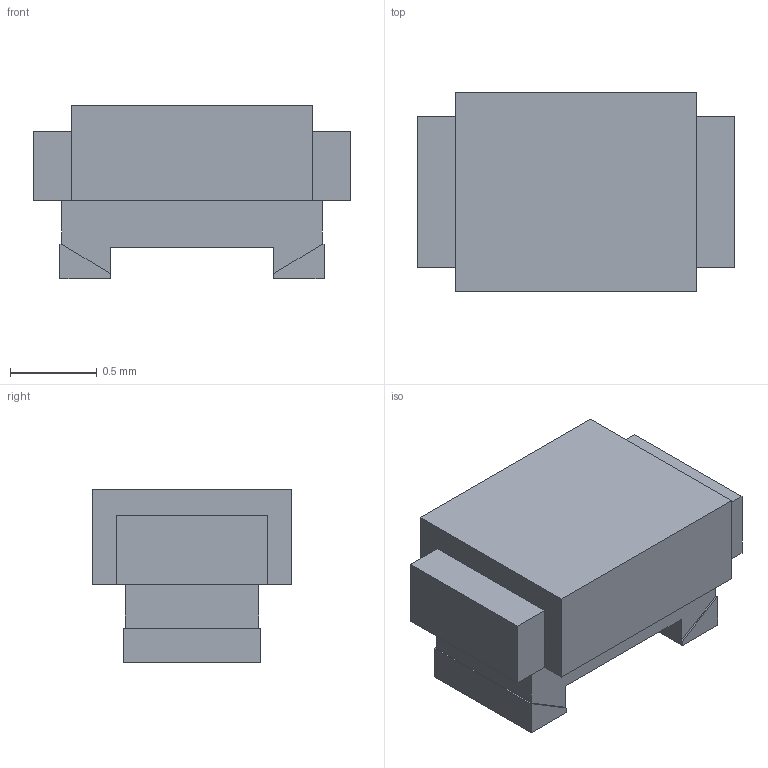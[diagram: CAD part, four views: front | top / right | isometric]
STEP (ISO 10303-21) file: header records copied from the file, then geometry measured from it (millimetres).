
FILE_DESCRIPTION(('STEP AP203'), '1');
FILE_NAME('ÊIF 1608 (0603)', '', ('UNSPECIFIED'), ('UNSPECIFIED'), 'ASCON STEP Converter 1.6', 'ASCON Math Kernel', '');
FILE_SCHEMA(('CONFIG_CONTROL_DESIGN'));
Length unit declared in the file: millimetre
Assembly tree (1 placements, depth 2):
  (unnamed)
    (unnamed)
Bounding box: 1.83 x 1.15 x 1 mm (x, y, z)
Volume: 1.4 mm3; surface area: 9.4 mm2
Topology: 1 solids, 2 shells, 54 faces, 143 edges, 94 vertices
Faces by surface type: plane 50, cylinder 4
Entity records: 2171 total; most frequent: CARTESIAN_POINT 293, ORIENTED_EDGE 286, DIRECTION 263, EDGE_CURVE 143, LINE 135, VECTOR 135, VERTEX_POINT 94, AXIS2_PLACEMENT_3D 64
